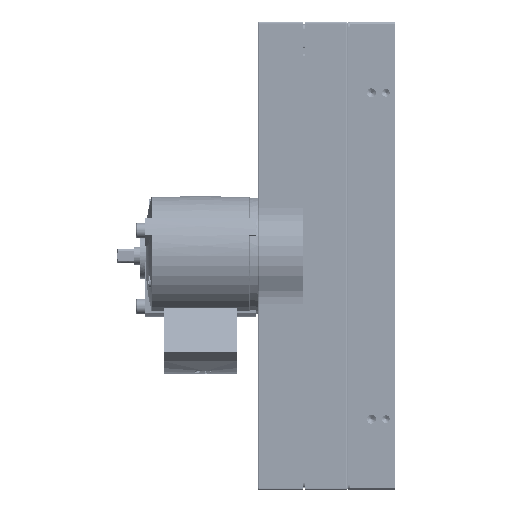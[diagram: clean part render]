
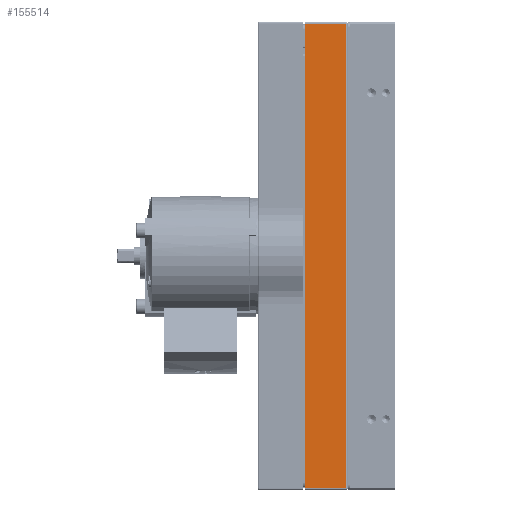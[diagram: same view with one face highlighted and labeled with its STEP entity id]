
A CAD part, left-side view. The second image highlights one B-rep face of the part: STEP entity #155514.
In plain terms, the highlighted planar face has unit normal (-1, 0, 0).
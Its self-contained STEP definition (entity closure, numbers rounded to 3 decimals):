
#6472 = DIRECTION ( 'NONE',  ( 1., 0., 0. ) ) ;
#6669 = DIRECTION ( 'NONE',  ( 0., -1., 0. ) ) ;
#17240 = EDGE_CURVE ( 'NONE', #219600, #296511, #307373, .T. ) ;
#20439 = VECTOR ( 'NONE', #153848, 1000. ) ;
#23090 = VERTEX_POINT ( 'NONE', #113395 ) ;
#28616 = VECTOR ( 'NONE', #132824, 1000. ) ;
#48037 = LINE ( 'NONE', #352724, #28616 ) ;
#50198 = ORIENTED_EDGE ( 'NONE', *, *, #271085, .T. ) ;
#95540 = AXIS2_PLACEMENT_3D ( 'NONE', #254553, #6472, #377562 ) ;
#102770 = VECTOR ( 'NONE', #304867, 1000. ) ;
#106977 = ORIENTED_EDGE ( 'NONE', *, *, #338601, .T. ) ;
#113395 = CARTESIAN_POINT ( 'NONE',  ( -26., 27., -128.1 ) ) ;
#132824 = DIRECTION ( 'NONE',  ( 0., 0., -1. ) ) ;
#141608 = CARTESIAN_POINT ( 'NONE',  ( -26., 49.8, 128.1 ) ) ;
#146272 = ORIENTED_EDGE ( 'NONE', *, *, #17240, .T. ) ;
#153848 = DIRECTION ( 'NONE',  ( 0., 1., 0. ) ) ;
#155514 = ADVANCED_FACE ( 'NONE', ( #329534 ), #238667, .F. ) ;
#175475 = EDGE_CURVE ( 'NONE', #368860, #23090, #258736, .T. ) ;
#181629 = CARTESIAN_POINT ( 'NONE',  ( -26., 27., 196.02 ) ) ;
#219600 = VERTEX_POINT ( 'NONE', #318844 ) ;
#238667 = PLANE ( 'NONE',  #95540 ) ;
#254553 = CARTESIAN_POINT ( 'NONE',  ( -26., -1.7, 196.02 ) ) ;
#258736 = LINE ( 'NONE', #313321, #388987 ) ;
#271085 = EDGE_CURVE ( 'NONE', #23090, #219600, #274617, .T. ) ;
#271909 = ORIENTED_EDGE ( 'NONE', *, *, #175475, .T. ) ;
#274617 = LINE ( 'NONE', #181629, #102770 ) ;
#277166 = CARTESIAN_POINT ( 'NONE',  ( -26., -1.7, 128.1 ) ) ;
#296511 = VERTEX_POINT ( 'NONE', #141608 ) ;
#304867 = DIRECTION ( 'NONE',  ( 0., 0., 1. ) ) ;
#307373 = LINE ( 'NONE', #277166, #20439 ) ;
#313321 = CARTESIAN_POINT ( 'NONE',  ( -26., -1.7, -128.1 ) ) ;
#318844 = CARTESIAN_POINT ( 'NONE',  ( -26., 27., 128.1 ) ) ;
#324667 = CARTESIAN_POINT ( 'NONE',  ( -26., 49.8, -128.1 ) ) ;
#329534 = FACE_OUTER_BOUND ( 'NONE', #353524, .T. ) ;
#338601 = EDGE_CURVE ( 'NONE', #296511, #368860, #48037, .T. ) ;
#352724 = CARTESIAN_POINT ( 'NONE',  ( -26., 49.8, 196.02 ) ) ;
#353524 = EDGE_LOOP ( 'NONE', ( #50198, #146272, #106977, #271909 ) ) ;
#368860 = VERTEX_POINT ( 'NONE', #324667 ) ;
#377562 = DIRECTION ( 'NONE',  ( 0., 0., -1. ) ) ;
#388987 = VECTOR ( 'NONE', #6669, 1000. ) ;
